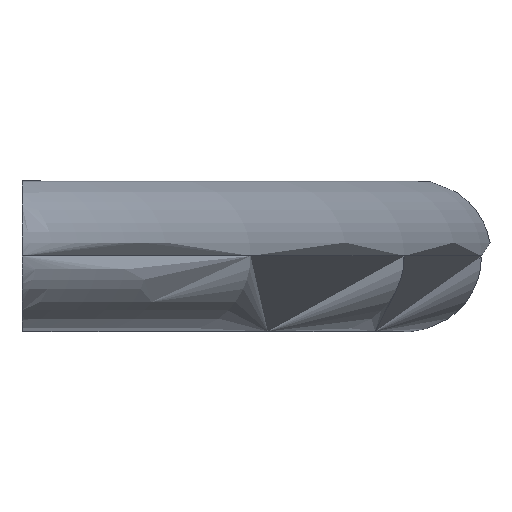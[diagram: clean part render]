
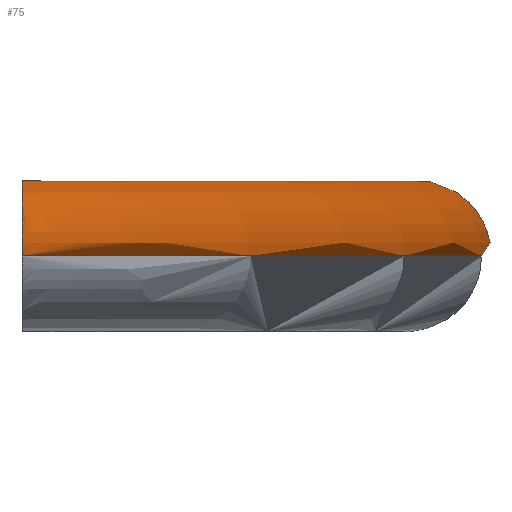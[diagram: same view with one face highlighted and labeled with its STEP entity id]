
A CAD part, left-side view. The second image highlights one B-rep face of the part: STEP entity #75.
In plain terms, the highlighted toroidal (fillet/blend) face has major radius 471.16 mm and minor radius 5 mm.
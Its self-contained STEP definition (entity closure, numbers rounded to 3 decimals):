
#75 = ADVANCED_FACE( '', ( #86 ), #87, .T. );
#86 = FACE_OUTER_BOUND( '', #108, .T. );
#87 = TOROIDAL_SURFACE( '', #109, 471.16, 5. );
#108 = EDGE_LOOP( '', ( #130, #131, #132, #133 ) );
#109 = AXIS2_PLACEMENT_3D( '', #134, #135, #136 );
#130 = ORIENTED_EDGE( '', *, *, #196, .F. );
#131 = ORIENTED_EDGE( '', *, *, #197, .T. );
#132 = ORIENTED_EDGE( '', *, *, #198, .F. );
#133 = ORIENTED_EDGE( '', *, *, #199, .T. );
#134 = CARTESIAN_POINT( '', ( 144., 445.16, 0. ) );
#135 = DIRECTION( '', ( 0., 0., -1. ) );
#136 = DIRECTION( '', ( -1., 0., 0. ) );
#196 = EDGE_CURVE( '', #214, #215, #216, .T. );
#197 = EDGE_CURVE( '', #214, #217, #218, .T. );
#198 = EDGE_CURVE( '', #219, #217, #220, .T. );
#199 = EDGE_CURVE( '', #219, #215, #221, .T. );
#214 = VERTEX_POINT( '', #244 );
#215 = VERTEX_POINT( '', #245 );
#216 = CIRCLE( '', #246, 476.16 );
#217 = VERTEX_POINT( '', #247 );
#218 = B_SPLINE_CURVE_WITH_KNOTS( '', 3, ( #248, #249, #250, #251, #252, #253, #254, #255, #256, #257, #258, #259, #260, #261, #262, #263, #264, #265, #266, #267, #268, #269, #270, #271, #272, #273, #274, #275, #276, #277, #278, #279, #280, #281, #282, #283, #284, #285, #286, #287, #288, #289 ), .UNSPECIFIED., .F., .F., ( 4, 2, 2, 2, 2, 2, 2, 2, 2, 2, 2, 2, 2, 2, 2, 2, 2, 2, 2, 2, 4 ), ( 0., 0.291, 0.582, 0.933, 1.283, 2.471, 3.659, 5.146, 6.634, 9.609, 15.56, 21.982, 25.193, 26.798, 28.404, 29.704, 31.005, 31.35, 31.695, 31.968, 32.241 ), .UNSPECIFIED. );
#219 = VERTEX_POINT( '', #290 );
#220 = CIRCLE( '', #291, 466.16 );
#221 = B_SPLINE_CURVE_WITH_KNOTS( '', 3, ( #292, #293, #294, #295, #296, #297, #298, #299, #300, #301, #302, #303, #304, #305, #306, #307, #308, #309, #310, #311, #312, #313, #314, #315, #316, #317, #318, #319, #320, #321, #322, #323, #324, #325, #326, #327, #328, #329, #330, #331, #332, #333 ), .UNSPECIFIED., .F., .F., ( 4, 2, 2, 2, 2, 2, 2, 2, 2, 2, 2, 2, 2, 2, 2, 2, 2, 2, 2, 2, 4 ), ( 32.241, 32.513, 32.786, 33.131, 33.476, 34.777, 36.077, 37.683, 39.288, 42.499, 48.921, 54.872, 57.847, 59.335, 60.823, 62.01, 63.198, 63.549, 63.899, 64.19, 64.481 ), .UNSPECIFIED. );
#244 = CARTESIAN_POINT( '', ( 313., 0., 0. ) );
#245 = CARTESIAN_POINT( '', ( -25., 0., 0. ) );
#246 = AXIS2_PLACEMENT_3D( '', #442, #443, #444 );
#247 = CARTESIAN_POINT( '', ( 282.339, 0., 0. ) );
#248 = CARTESIAN_POINT( '', ( 313., 0., 0. ) );
#249 = CARTESIAN_POINT( '', ( 313., 0., 0.097 ) );
#250 = CARTESIAN_POINT( '', ( 312.991, 0., 0.203 ) );
#251 = CARTESIAN_POINT( '', ( 312.955, 0., 0.412 ) );
#252 = CARTESIAN_POINT( '', ( 312.927, 0., 0.515 ) );
#253 = CARTESIAN_POINT( '', ( 312.858, 0., 0.717 ) );
#254 = CARTESIAN_POINT( '', ( 312.806, 0., 0.835 ) );
#255 = CARTESIAN_POINT( '', ( 312.684, 0., 1.059 ) );
#256 = CARTESIAN_POINT( '', ( 312.613, 0., 1.167 ) );
#257 = CARTESIAN_POINT( '', ( 312.309, 0., 1.579 ) );
#258 = CARTESIAN_POINT( '', ( 311.996, 0., 1.873 ) );
#259 = CARTESIAN_POINT( '', ( 311.308, 0., 2.388 ) );
#260 = CARTESIAN_POINT( '', ( 310.934, 0., 2.61 ) );
#261 = CARTESIAN_POINT( '', ( 310.143, 0., 3.021 ) );
#262 = CARTESIAN_POINT( '', ( 309.682, 0., 3.22 ) );
#263 = CARTESIAN_POINT( '', ( 308.731, 0., 3.578 ) );
#264 = CARTESIAN_POINT( '', ( 308.24, 0., 3.735 ) );
#265 = CARTESIAN_POINT( '', ( 306.735, 0., 4.158 ) );
#266 = CARTESIAN_POINT( '', ( 305.689, 0., 4.375 ) );
#267 = CARTESIAN_POINT( '', ( 302.508, 0., 4.872 ) );
#268 = CARTESIAN_POINT( '', ( 300.335, 0., 5. ) );
#269 = CARTESIAN_POINT( '', ( 296.211, 0., 5. ) );
#270 = CARTESIAN_POINT( '', ( 293.866, 0., 4.851 ) );
#271 = CARTESIAN_POINT( '', ( 290.418, 0., 4.325 ) );
#272 = CARTESIAN_POINT( '', ( 289.281, 0., 4.101 ) );
#273 = CARTESIAN_POINT( '', ( 287.639, 0., 3.673 ) );
#274 = CARTESIAN_POINT( '', ( 287.102, 0., 3.514 ) );
#275 = CARTESIAN_POINT( '', ( 286.059, 0., 3.159 ) );
#276 = CARTESIAN_POINT( '', ( 285.552, 0., 2.963 ) );
#277 = CARTESIAN_POINT( '', ( 284.673, 0., 2.557 ) );
#278 = CARTESIAN_POINT( '', ( 284.25, 0., 2.337 ) );
#279 = CARTESIAN_POINT( '', ( 283.464, 0., 1.821 ) );
#280 = CARTESIAN_POINT( '', ( 283.099, 0., 1.526 ) );
#281 = CARTESIAN_POINT( '', ( 282.75, 0., 1.102 ) );
#282 = CARTESIAN_POINT( '', ( 282.675, 0., 1. ) );
#283 = CARTESIAN_POINT( '', ( 282.544, 0., 0.786 ) );
#284 = CARTESIAN_POINT( '', ( 282.488, 0., 0.673 ) );
#285 = CARTESIAN_POINT( '', ( 282.415, 0., 0.48 ) );
#286 = CARTESIAN_POINT( '', ( 282.386, 0., 0.385 ) );
#287 = CARTESIAN_POINT( '', ( 282.348, 0., 0.19 ) );
#288 = CARTESIAN_POINT( '', ( 282.339, 0., 0.091 ) );
#289 = CARTESIAN_POINT( '', ( 282.339, 0., 0. ) );
#290 = CARTESIAN_POINT( '', ( 5.661, 0., 0. ) );
#291 = AXIS2_PLACEMENT_3D( '', #445, #446, #447 );
#292 = CARTESIAN_POINT( '', ( 5.661, 0., 0. ) );
#293 = CARTESIAN_POINT( '', ( 5.661, 0., 0.091 ) );
#294 = CARTESIAN_POINT( '', ( 5.652, 0., 0.19 ) );
#295 = CARTESIAN_POINT( '', ( 5.614, 0., 0.385 ) );
#296 = CARTESIAN_POINT( '', ( 5.585, 0., 0.48 ) );
#297 = CARTESIAN_POINT( '', ( 5.512, 0., 0.673 ) );
#298 = CARTESIAN_POINT( '', ( 5.456, 0., 0.786 ) );
#299 = CARTESIAN_POINT( '', ( 5.325, 0., 1. ) );
#300 = CARTESIAN_POINT( '', ( 5.25, 0., 1.102 ) );
#301 = CARTESIAN_POINT( '', ( 4.901, 0., 1.526 ) );
#302 = CARTESIAN_POINT( '', ( 4.536, 0., 1.821 ) );
#303 = CARTESIAN_POINT( '', ( 3.75, 0., 2.337 ) );
#304 = CARTESIAN_POINT( '', ( 3.327, 0., 2.557 ) );
#305 = CARTESIAN_POINT( '', ( 2.448, 0., 2.963 ) );
#306 = CARTESIAN_POINT( '', ( 1.941, 0., 3.159 ) );
#307 = CARTESIAN_POINT( '', ( 0.898, 0., 3.514 ) );
#308 = CARTESIAN_POINT( '', ( 0.361, 0., 3.673 ) );
#309 = CARTESIAN_POINT( '', ( -1.281, 0., 4.101 ) );
#310 = CARTESIAN_POINT( '', ( -2.418, 0., 4.325 ) );
#311 = CARTESIAN_POINT( '', ( -5.866, 0., 4.851 ) );
#312 = CARTESIAN_POINT( '', ( -8.211, 0., 5. ) );
#313 = CARTESIAN_POINT( '', ( -12.335, 0., 5. ) );
#314 = CARTESIAN_POINT( '', ( -14.508, 0., 4.872 ) );
#315 = CARTESIAN_POINT( '', ( -17.689, 0., 4.375 ) );
#316 = CARTESIAN_POINT( '', ( -18.735, 0., 4.158 ) );
#317 = CARTESIAN_POINT( '', ( -20.24, 0., 3.735 ) );
#318 = CARTESIAN_POINT( '', ( -20.731, 0., 3.578 ) );
#319 = CARTESIAN_POINT( '', ( -21.682, 0., 3.22 ) );
#320 = CARTESIAN_POINT( '', ( -22.143, 0., 3.021 ) );
#321 = CARTESIAN_POINT( '', ( -22.934, 0., 2.61 ) );
#322 = CARTESIAN_POINT( '', ( -23.308, 0., 2.388 ) );
#323 = CARTESIAN_POINT( '', ( -23.996, 0., 1.873 ) );
#324 = CARTESIAN_POINT( '', ( -24.309, 0., 1.579 ) );
#325 = CARTESIAN_POINT( '', ( -24.613, 0., 1.167 ) );
#326 = CARTESIAN_POINT( '', ( -24.684, 0., 1.059 ) );
#327 = CARTESIAN_POINT( '', ( -24.806, 0., 0.835 ) );
#328 = CARTESIAN_POINT( '', ( -24.858, 0., 0.717 ) );
#329 = CARTESIAN_POINT( '', ( -24.927, 0., 0.515 ) );
#330 = CARTESIAN_POINT( '', ( -24.955, 0., 0.412 ) );
#331 = CARTESIAN_POINT( '', ( -24.991, 0., 0.203 ) );
#332 = CARTESIAN_POINT( '', ( -25., 0., 0.097 ) );
#333 = CARTESIAN_POINT( '', ( -25., 0., 0. ) );
#442 = CARTESIAN_POINT( '', ( 144., 445.16, 0. ) );
#443 = DIRECTION( '', ( 0., 0., -1. ) );
#444 = DIRECTION( '', ( -1., 0., 0. ) );
#445 = CARTESIAN_POINT( '', ( 144., 445.16, 0. ) );
#446 = DIRECTION( '', ( 0., 0., 1. ) );
#447 = DIRECTION( '', ( -1., 0., 0. ) );
